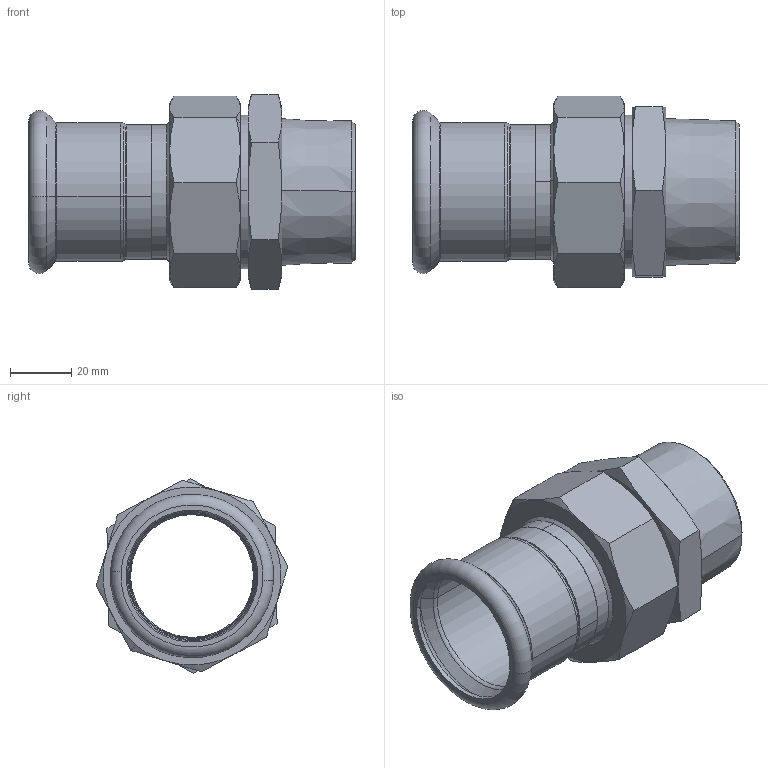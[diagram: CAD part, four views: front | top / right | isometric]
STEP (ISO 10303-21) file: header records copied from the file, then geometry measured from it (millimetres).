
FILE_DESCRIPTION (( 'STEP AP203' ), '1' );
FILE_NAME ('GDA5440.STEP', '2019-01-21T05:25:40', ( '' ), ( '' ), 'SwSTEP 2.0', 'SolidWorks 2015', '' );
FILE_SCHEMA (( 'CONFIG_CONTROL_DESIGN' ));
Length unit declared in the file: millimetre
Products named in the file (6): 1.75; GDA5440; 蛌遙諉芛1.75-1.5; T-ｉ-01-42; 42｡ﾁ1?; ZL-Ⅰ-01×1?
Assembly tree (5 placements, depth 2):
  GDA5440
    1.75
    42｡ﾁ1?
    T-ｉ-01-42
    ZL-Ⅰ-01×1?
    蛌遙諉芛1.75-1.5
Bounding box: 106.5 x 62.48 x 63.5 mm (x, y, z)
Volume: 75054.4 mm3; surface area: 47161.6 mm2
Topology: 5 solids, 5 shells, 132 faces, 274 edges, 158 vertices
Faces by surface type: cone 54, cylinder 32, plane 30, torus 16
Entity records: 4324 total; most frequent: CARTESIAN_POINT 884, DIRECTION 644, ORIENTED_EDGE 548, AXIS2_PLACEMENT_3D 286, EDGE_CURVE 274, VERTEX_POINT 158, EDGE_LOOP 148, CIRCLE 146
